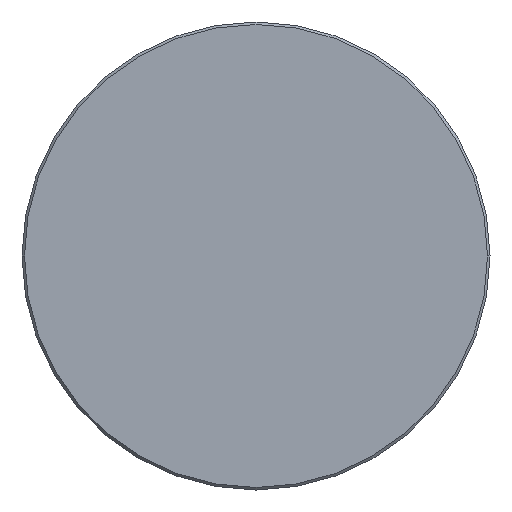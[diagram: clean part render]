
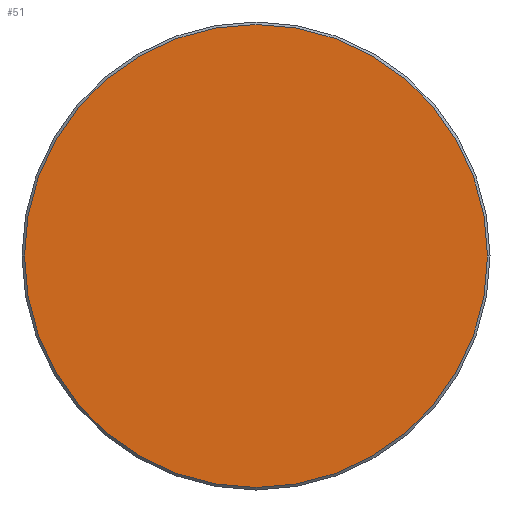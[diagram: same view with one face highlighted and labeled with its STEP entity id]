
A CAD part, left-side view. The second image highlights one B-rep face of the part: STEP entity #51.
In plain terms, the highlighted planar face has unit normal (-1, 0, 0).
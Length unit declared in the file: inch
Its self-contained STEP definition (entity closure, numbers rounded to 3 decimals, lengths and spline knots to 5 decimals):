
#23 = DIRECTION ( 'NONE',  ( 0., -1., 0. ) ) ;
#44 = AXIS2_PLACEMENT_3D ( 'NONE', #373, #190, #23 ) ;
#51 = ADVANCED_FACE ( 'NONE', ( #203 ), #309, .T. ) ;
#79 = EDGE_CURVE ( 'NONE', #366, #80, #308, .T. ) ;
#80 = VERTEX_POINT ( 'NONE', #172 ) ;
#97 = CARTESIAN_POINT ( 'NONE',  ( 0., 0.371, 0. ) ) ;
#108 = ORIENTED_EDGE ( 'NONE', *, *, #134, .T. ) ;
#134 = EDGE_CURVE ( 'NONE', #80, #366, #326, .T. ) ;
#138 = EDGE_LOOP ( 'NONE', ( #185, #108 ) ) ;
#165 = AXIS2_PLACEMENT_3D ( 'NONE', #367, #188, #365 ) ;
#172 = CARTESIAN_POINT ( 'NONE',  ( 0., -0.371, 0. ) ) ;
#185 = ORIENTED_EDGE ( 'NONE', *, *, #79, .T. ) ;
#188 = DIRECTION ( 'NONE',  ( -1., 0., 0. ) ) ;
#190 = DIRECTION ( 'NONE',  ( -1., 0., 0. ) ) ;
#203 = FACE_OUTER_BOUND ( 'NONE', #138, .T. ) ;
#290 = AXIS2_PLACEMENT_3D ( 'NONE', #314, #381, #378 ) ;
#308 = CIRCLE ( 'NONE', #290, 0.371 ) ;
#309 = PLANE ( 'NONE',  #44 ) ;
#314 = CARTESIAN_POINT ( 'NONE',  ( 0., 0., 0. ) ) ;
#326 = CIRCLE ( 'NONE', #165, 0.371 ) ;
#365 = DIRECTION ( 'NONE',  ( 0., -1., 0. ) ) ;
#366 = VERTEX_POINT ( 'NONE', #97 ) ;
#367 = CARTESIAN_POINT ( 'NONE',  ( 0., 0., 0. ) ) ;
#373 = CARTESIAN_POINT ( 'NONE',  ( 0., 0., 0. ) ) ;
#378 = DIRECTION ( 'NONE',  ( 0., -1., 0. ) ) ;
#381 = DIRECTION ( 'NONE',  ( -1., 0., 0. ) ) ;
